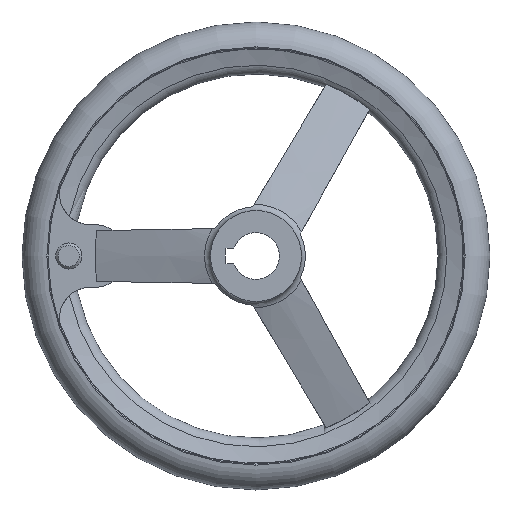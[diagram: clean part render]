
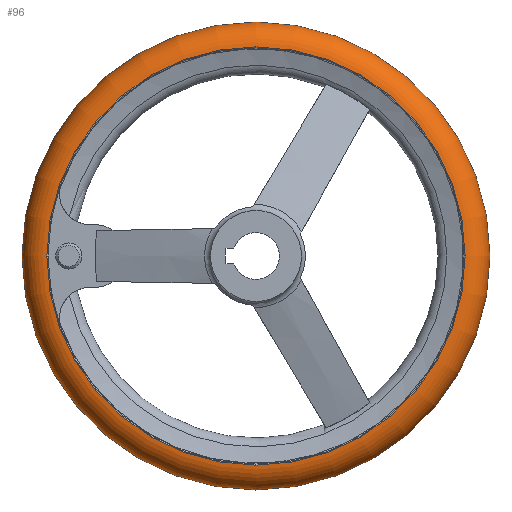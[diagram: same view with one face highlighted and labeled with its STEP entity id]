
A CAD part, left-side view. The second image highlights one B-rep face of the part: STEP entity #96.
In plain terms, the highlighted toroidal (fillet/blend) face has major radius 79.991 mm and minor radius 10.009 mm.
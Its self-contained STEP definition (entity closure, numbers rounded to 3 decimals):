
#96 = ADVANCED_FACE( '', ( #183, #184, #185 ), #186, .T. );
#183 = FACE_BOUND( '', #344, .T. );
#184 = FACE_OUTER_BOUND( '', #345, .T. );
#185 = FACE_OUTER_BOUND( '', #346, .T. );
#186 = TOROIDAL_SURFACE( '', #347, 79.991, 10.009 );
#344 = VERTEX_LOOP( '', #588 );
#345 = EDGE_LOOP( '', ( #589 ) );
#346 = EDGE_LOOP( '', ( #590 ) );
#347 = AXIS2_PLACEMENT_3D( '', #591, #592, #593 );
#588 = VERTEX_POINT( '', #892 );
#589 = ORIENTED_EDGE( '', *, *, #893, .T. );
#590 = ORIENTED_EDGE( '', *, *, #894, .F. );
#591 = CARTESIAN_POINT( '', ( 33., 0., 0. ) );
#592 = DIRECTION( '', ( 1., 0., 0. ) );
#593 = DIRECTION( '', ( 0., 1., 0. ) );
#892 = CARTESIAN_POINT( '', ( 33., 90., 0. ) );
#893 = EDGE_CURVE( '', #1080, #1080, #1081, .T. );
#894 = EDGE_CURVE( '', #1082, #1082, #1083, .T. );
#1080 = VERTEX_POINT( '', #1667 );
#1081 = CIRCLE( '', #1668, 80.417 );
#1082 = VERTEX_POINT( '', #1669 );
#1083 = CIRCLE( '', #1670, 80.417 );
#1667 = CARTESIAN_POINT( '', ( 23., 80.417, 0. ) );
#1668 = AXIS2_PLACEMENT_3D( '', #1913, #1914, #1915 );
#1669 = CARTESIAN_POINT( '', ( 43., 80.417, 0. ) );
#1670 = AXIS2_PLACEMENT_3D( '', #1916, #1917, #1918 );
#1913 = CARTESIAN_POINT( '', ( 23., 0., 0. ) );
#1914 = DIRECTION( '', ( 1., 0., 0. ) );
#1915 = DIRECTION( '', ( 0., 1., 0. ) );
#1916 = CARTESIAN_POINT( '', ( 43., 0., 0. ) );
#1917 = DIRECTION( '', ( 1., 0., 0. ) );
#1918 = DIRECTION( '', ( 0., 1., 0. ) );
